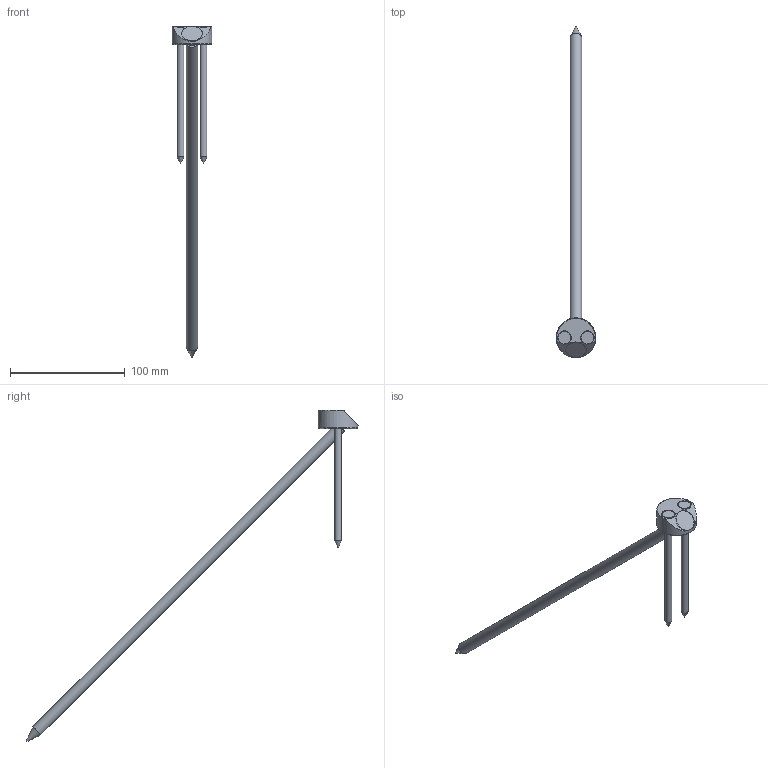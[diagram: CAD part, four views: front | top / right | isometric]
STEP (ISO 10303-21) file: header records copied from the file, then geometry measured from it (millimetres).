
FILE_DESCRIPTION(/* description */ ('Unknown'),/* implementation_level */ '2;1');
FILE_NAME(/* name */ 'T-JOINT_D35_W45_2xSK 6x120_1xSK 10x400',/* time_stamp */ '2022-02-03T13:28:01+01:00',/* author */ ('Unknown'),/* organization */ ('Unknown'),/* preprocessor_version */ 'ST-DEVELOPER v16.7',/* originating_system */ 'Solid Edge',/* authorisation */ 'Unknown');
FILE_SCHEMA (('AUTOMOTIVE_DESIGN {1 0 10303 214 3 1 1}'));
Length unit declared in the file: millimetre
Products named in the file (4): T-Joint_D35_W45_SK-10x400_2xSK-6x120; T-Joint_D35_W45; SK Schraube 6x120_ohne_Gewinde; SK Schraube 10x400_ohne_Gewinde_22042020
Assembly tree (4 placements, depth 2):
  T-Joint_D35_W45_SK-10x400_2xSK-6x120
    T-Joint_D35_W45
    SK Schraube 6x120_ohne_Gewinde  x2
    SK Schraube 10x400_ohne_Gewinde_22042020
Bounding box: 34.78 x 289.84 x 289.56 mm (x, y, z)
Volume: 48361.6 mm3; surface area: 21579.5 mm2
Topology: 4 solids, 4 shells, 35 faces, 73 edges, 45 vertices
Faces by surface type: cylinder 12, plane 11, cone 9, torus 3
Full cylindrical faces by diameter (mm): 6 x2, 6.2 x2, 6.3 x1, 10 x2, 11 x2, 12.5 x1, 18 x1, 34.8 x1
Entity records: 771 total; most frequent: DIRECTION 130, CARTESIAN_POINT 126, ORIENTED_EDGE 76, AXIS2_PLACEMENT_3D 63, EDGE_LOOP 53, FACE_BOUND 53, EDGE_CURVE 38, VERTEX_POINT 33
